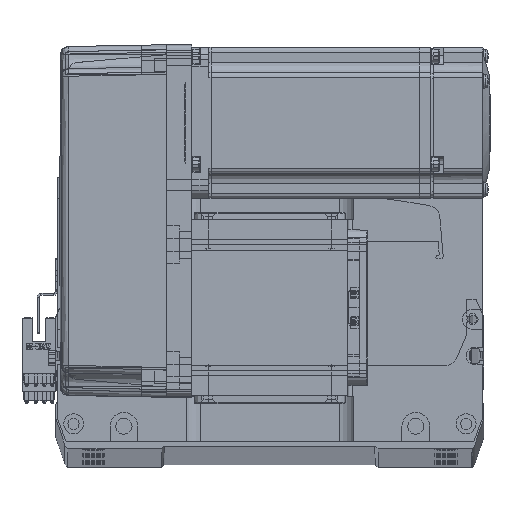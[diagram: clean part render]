
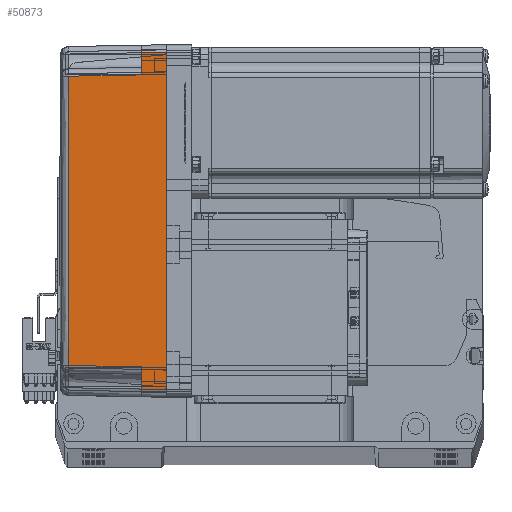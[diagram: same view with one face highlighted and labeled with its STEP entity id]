
A CAD part, top view. The second image highlights one B-rep face of the part: STEP entity #50873.
In plain terms, the highlighted planar face has unit normal (-0.018, 0, 1) as drawn and (0, 1, 0.017) by its records, which use the part's own axes.
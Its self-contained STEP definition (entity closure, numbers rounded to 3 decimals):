
#937 = DIRECTION ( 'NONE',  ( 1., 0., 0. ) ) ;
#1419 = CARTESIAN_POINT ( 'NONE',  ( 57.495, 35.32, 38.985 ) ) ;
#3082 = VERTEX_POINT ( 'NONE', #1419 ) ;
#4015 = EDGE_CURVE ( 'NONE', #74083, #57311, #4649, .T. ) ;
#4065 = CARTESIAN_POINT ( 'NONE',  ( 19.165, 35.316, 39.181 ) ) ;
#4277 = LINE ( 'NONE', #5339, #53541 ) ;
#4649 = LINE ( 'NONE', #69350, #14718 ) ;
#5339 = CARTESIAN_POINT ( 'NONE',  ( 57.495, 35.32, 38.985 ) ) ;
#7674 = LINE ( 'NONE', #24890, #34079 ) ;
#8725 = CARTESIAN_POINT ( 'NONE',  ( -57.495, 35.32, 38.985 ) ) ;
#11444 = LINE ( 'NONE', #58325, #39691 ) ;
#13200 = ORIENTED_EDGE ( 'NONE', *, *, #61959, .F. ) ;
#14718 = VECTOR ( 'NONE', #23305, 1000. ) ;
#16135 = CARTESIAN_POINT ( 'NONE',  ( -57.495, 35.32, 38.985 ) ) ;
#22154 = ORIENTED_EDGE ( 'NONE', *, *, #24988, .T. ) ;
#23305 = DIRECTION ( 'NONE',  ( 1., 0., 0. ) ) ;
#24356 = DIRECTION ( 'NONE',  ( 1., 0., 0. ) ) ;
#24859 = B_SPLINE_CURVE_WITH_KNOTS ( 'NONE', 3,
 ( #8725, #32634, #4065, #62484 ),
 .UNSPECIFIED., .F., .F.,
 ( 4, 4 ),
 ( 0., 1. ),
 .UNSPECIFIED. ) ;
#24890 = CARTESIAN_POINT ( 'NONE',  ( 67.001, 36.001, -0.052 ) ) ;
#24988 = EDGE_CURVE ( 'NONE', #50422, #3082, #24859, .T. ) ;
#27052 = ORIENTED_EDGE ( 'NONE', *, *, #65080, .T. ) ;
#28413 = VERTEX_POINT ( 'NONE', #71303 ) ;
#28701 = PLANE ( 'NONE',  #69426 ) ;
#28877 = ORIENTED_EDGE ( 'NONE', *, *, #4015, .T. ) ;
#30703 = LINE ( 'NONE', #62241, #71734 ) ;
#30857 = VECTOR ( 'NONE', #45049, 1000. ) ;
#32634 = CARTESIAN_POINT ( 'NONE',  ( -19.165, 35.316, 39.181 ) ) ;
#32906 = ORIENTED_EDGE ( 'NONE', *, *, #33345, .T. ) ;
#33345 = EDGE_CURVE ( 'NONE', #41580, #58057, #30703, .T. ) ;
#33906 = EDGE_LOOP ( 'NONE', ( #32906, #47206, #27052, #22154, #67203, #28877, #13200, #50683 ) ) ;
#34079 = VECTOR ( 'NONE', #65666, 1000. ) ;
#35289 = CARTESIAN_POINT ( 'NONE',  ( 0., 36., 0. ) ) ;
#37931 = DIRECTION ( 'NONE',  ( 0.017, 0.017, -1. ) ) ;
#38657 = CARTESIAN_POINT ( 'NONE',  ( -58., 35.825, 10. ) ) ;
#39625 = DIRECTION ( 'NONE',  ( 0., -0.017, 1. ) ) ;
#39691 = VECTOR ( 'NONE', #937, 1000. ) ;
#39953 = CARTESIAN_POINT ( 'NONE',  ( 66.826, 35.825, 10. ) ) ;
#41374 = CARTESIAN_POINT ( 'NONE',  ( -66.826, 35.825, 10. ) ) ;
#41580 = VERTEX_POINT ( 'NONE', #67388 ) ;
#45049 = DIRECTION ( 'NONE',  ( 0.017, -0.017, 1. ) ) ;
#45091 = EDGE_CURVE ( 'NONE', #3082, #74083, #4277, .T. ) ;
#46393 = LINE ( 'NONE', #38657, #30857 ) ;
#47206 = ORIENTED_EDGE ( 'NONE', *, *, #57413, .T. ) ;
#50422 = VERTEX_POINT ( 'NONE', #16135 ) ;
#50480 = DIRECTION ( 'NONE',  ( 0.017, -0.017, 1. ) ) ;
#50683 = ORIENTED_EDGE ( 'NONE', *, *, #69532, .F. ) ;
#50873 = ADVANCED_FACE ( 'NONE', ( #67429 ), #28701, .T. ) ;
#53541 = VECTOR ( 'NONE', #37931, 1000. ) ;
#57235 = CARTESIAN_POINT ( 'NONE',  ( 70., 36., 0. ) ) ;
#57311 = VERTEX_POINT ( 'NONE', #39953 ) ;
#57413 = EDGE_CURVE ( 'NONE', #58057, #28413, #11444, .T. ) ;
#58057 = VERTEX_POINT ( 'NONE', #41374 ) ;
#58325 = CARTESIAN_POINT ( 'NONE',  ( 70., 35.825, 10. ) ) ;
#61840 = VECTOR ( 'NONE', #24356, 1000. ) ;
#61959 = EDGE_CURVE ( 'NONE', #62800, #57311, #7674, .T. ) ;
#62241 = CARTESIAN_POINT ( 'NONE',  ( -67., 36., 0. ) ) ;
#62478 = CARTESIAN_POINT ( 'NONE',  ( 67., 36., 0. ) ) ;
#62484 = CARTESIAN_POINT ( 'NONE',  ( 57.495, 35.32, 38.985 ) ) ;
#62800 = VERTEX_POINT ( 'NONE', #62478 ) ;
#63844 = CARTESIAN_POINT ( 'NONE',  ( 58., 35.825, 10. ) ) ;
#65080 = EDGE_CURVE ( 'NONE', #28413, #50422, #46393, .T. ) ;
#65666 = DIRECTION ( 'NONE',  ( -0.017, -0.017, 1. ) ) ;
#67203 = ORIENTED_EDGE ( 'NONE', *, *, #45091, .T. ) ;
#67388 = CARTESIAN_POINT ( 'NONE',  ( -67., 36., 0. ) ) ;
#67429 = FACE_OUTER_BOUND ( 'NONE', #33906, .T. ) ;
#69350 = CARTESIAN_POINT ( 'NONE',  ( 70., 35.825, 10. ) ) ;
#69426 = AXIS2_PLACEMENT_3D ( 'NONE', #57235, #75363, #39625 ) ;
#69532 = EDGE_CURVE ( 'NONE', #41580, #62800, #72798, .T. ) ;
#71303 = CARTESIAN_POINT ( 'NONE',  ( -58., 35.825, 10. ) ) ;
#71734 = VECTOR ( 'NONE', #50480, 1000. ) ;
#72798 = LINE ( 'NONE', #35289, #61840 ) ;
#74083 = VERTEX_POINT ( 'NONE', #63844 ) ;
#75363 = DIRECTION ( 'NONE',  ( 0., 1., 0.017 ) ) ;
